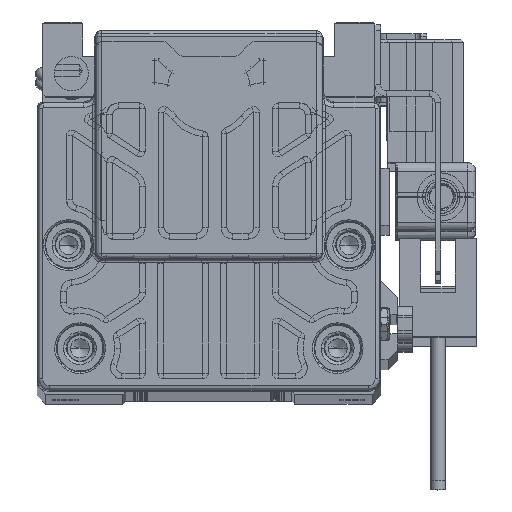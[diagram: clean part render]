
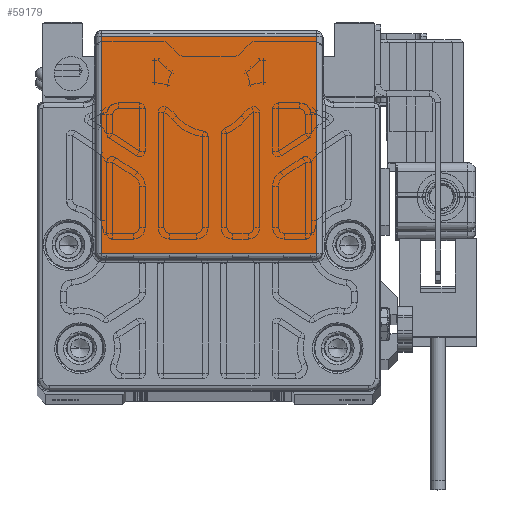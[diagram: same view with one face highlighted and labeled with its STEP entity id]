
A CAD part, top view. The second image highlights one B-rep face of the part: STEP entity #59179.
In plain terms, the highlighted planar face has unit normal (0, 0, 1) as drawn and (0, 0, -1) by its records, which use the part's own axes.
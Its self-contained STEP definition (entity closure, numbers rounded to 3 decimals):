
#2016 = VECTOR ( 'NONE', #71585, 1000. ) ;
#2964 = DIRECTION ( 'NONE',  ( 1., 0., 0. ) ) ;
#6724 = DIRECTION ( 'NONE',  ( 1., 0., 0. ) ) ;
#9831 = EDGE_CURVE ( 'NONE', #61389, #89418, #74874, .T. ) ;
#10612 = CARTESIAN_POINT ( 'NONE',  ( 18.808, 62.447, -143. ) ) ;
#13030 = DIRECTION ( 'NONE',  ( 0., 1., 0. ) ) ;
#18611 = DIRECTION ( 'NONE',  ( 0., 0., -1. ) ) ;
#31191 = EDGE_CURVE ( 'NONE', #81086, #89418, #48217, .T. ) ;
#33650 = EDGE_CURVE ( 'NONE', #37468, #81086, #63824, .T. ) ;
#37197 = VECTOR ( 'NONE', #6724, 1000. ) ;
#37468 = VERTEX_POINT ( 'NONE', #56966 ) ;
#39408 = CARTESIAN_POINT ( 'NONE',  ( 18.808, 24.5, -143. ) ) ;
#39679 = ORIENTED_EDGE ( 'NONE', *, *, #9831, .T. ) ;
#41630 = AXIS2_PLACEMENT_3D ( 'NONE', #70108, #18611, #13030 ) ;
#43119 = VECTOR ( 'NONE', #2964, 1000. ) ;
#43328 = CARTESIAN_POINT ( 'NONE',  ( -18.808, 31., -143. ) ) ;
#46335 = EDGE_CURVE ( 'NONE', #61389, #37468, #69758, .T. ) ;
#48217 = LINE ( 'NONE', #39408, #50176 ) ;
#48254 = ORIENTED_EDGE ( 'NONE', *, *, #33650, .F. ) ;
#50176 = VECTOR ( 'NONE', #69072, 1000. ) ;
#56966 = CARTESIAN_POINT ( 'NONE',  ( -18.808, 24.518, -143. ) ) ;
#59179 = ADVANCED_FACE ( 'NONE', ( #68728 ), #68252, .T. ) ;
#61389 = VERTEX_POINT ( 'NONE', #87437 ) ;
#62008 = ORIENTED_EDGE ( 'NONE', *, *, #46335, .F. ) ;
#63824 = LINE ( 'NONE', #90295, #37197 ) ;
#66306 = ORIENTED_EDGE ( 'NONE', *, *, #31191, .F. ) ;
#68252 = PLANE ( 'NONE',  #41630 ) ;
#68728 = FACE_OUTER_BOUND ( 'NONE', #82979, .T. ) ;
#69072 = DIRECTION ( 'NONE',  ( 0., 1., 0. ) ) ;
#69758 = LINE ( 'NONE', #43328, #2016 ) ;
#70108 = CARTESIAN_POINT ( 'NONE',  ( 19., 24.5, -143. ) ) ;
#71585 = DIRECTION ( 'NONE',  ( 0., -1., 0. ) ) ;
#74416 = CARTESIAN_POINT ( 'NONE',  ( 19., 62.447, -143. ) ) ;
#74874 = LINE ( 'NONE', #74416, #43119 ) ;
#81086 = VERTEX_POINT ( 'NONE', #81438 ) ;
#81438 = CARTESIAN_POINT ( 'NONE',  ( 18.808, 24.518, -143. ) ) ;
#82979 = EDGE_LOOP ( 'NONE', ( #66306, #48254, #62008, #39679 ) ) ;
#87437 = CARTESIAN_POINT ( 'NONE',  ( -18.808, 62.447, -143. ) ) ;
#89418 = VERTEX_POINT ( 'NONE', #10612 ) ;
#90295 = CARTESIAN_POINT ( 'NONE',  ( 19., 24.518, -143. ) ) ;
